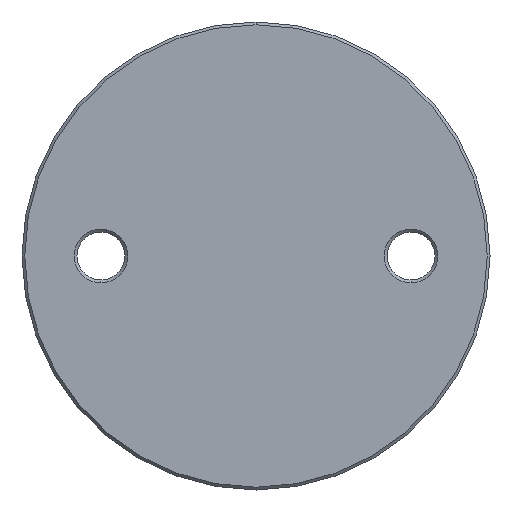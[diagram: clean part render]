
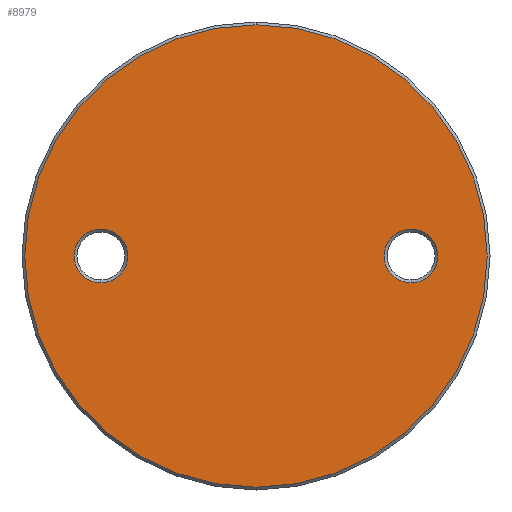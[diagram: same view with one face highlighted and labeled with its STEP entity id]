
A CAD part, front view. The second image highlights one B-rep face of the part: STEP entity #8979.
In plain terms, the highlighted planar face has unit normal (0, -1, 0).
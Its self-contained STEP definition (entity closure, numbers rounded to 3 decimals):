
#34 = FACE_BOUND ( 'NONE', #2474, .T. ) ;
#39 = EDGE_CURVE ( 'NONE', #5530, #4105, #3273, .T. ) ;
#333 = CARTESIAN_POINT ( 'NONE',  ( -27.5, -3., 0. ) ) ;
#684 = ORIENTED_EDGE ( 'NONE', *, *, #2409, .T. ) ;
#867 = VERTEX_POINT ( 'NONE', #5184 ) ;
#901 = FACE_OUTER_BOUND ( 'NONE', #4685, .T. ) ;
#1038 = EDGE_CURVE ( 'NONE', #1686, #2707, #8952, .T. ) ;
#1278 = DIRECTION ( 'NONE',  ( 0., 1., 0. ) ) ;
#1429 = ORIENTED_EDGE ( 'NONE', *, *, #9636, .T. ) ;
#1517 = CARTESIAN_POINT ( 'NONE',  ( 27.5, -3., 4.75 ) ) ;
#1603 = AXIS2_PLACEMENT_3D ( 'NONE', #2390, #8736, #7248 ) ;
#1665 = ORIENTED_EDGE ( 'NONE', *, *, #39, .T. ) ;
#1686 = VERTEX_POINT ( 'NONE', #6346 ) ;
#1696 = PLANE ( 'NONE',  #1603 ) ;
#1884 = DIRECTION ( 'NONE',  ( 0., 1., 0. ) ) ;
#2351 = ORIENTED_EDGE ( 'NONE', *, *, #1038, .T. ) ;
#2390 = CARTESIAN_POINT ( 'NONE',  ( 0., -3., 41.5 ) ) ;
#2409 = EDGE_CURVE ( 'NONE', #867, #7086, #6581, .T. ) ;
#2474 = EDGE_LOOP ( 'NONE', ( #1429, #1665 ) ) ;
#2707 = VERTEX_POINT ( 'NONE', #5394 ) ;
#3273 = CIRCLE ( 'NONE', #3768, 4.75 ) ;
#3475 = CARTESIAN_POINT ( 'NONE',  ( -27.5, -3., -4.75 ) ) ;
#3503 = FACE_BOUND ( 'NONE', #9472, .T. ) ;
#3531 = CARTESIAN_POINT ( 'NONE',  ( 0., -3., 0. ) ) ;
#3709 = DIRECTION ( 'NONE',  ( 0., 0., -1. ) ) ;
#3768 = AXIS2_PLACEMENT_3D ( 'NONE', #333, #9789, #4287 ) ;
#4105 = VERTEX_POINT ( 'NONE', #3475 ) ;
#4139 = DIRECTION ( 'NONE',  ( 0., 0., -1. ) ) ;
#4287 = DIRECTION ( 'NONE',  ( 0., 0., -1. ) ) ;
#4413 = ORIENTED_EDGE ( 'NONE', *, *, #6885, .T. ) ;
#4685 = EDGE_LOOP ( 'NONE', ( #2351, #6026 ) ) ;
#5039 = DIRECTION ( 'NONE',  ( 0., -1., 0. ) ) ;
#5184 = CARTESIAN_POINT ( 'NONE',  ( 27.5, -3., -4.75 ) ) ;
#5199 = AXIS2_PLACEMENT_3D ( 'NONE', #3531, #5039, #8936 ) ;
#5363 = DIRECTION ( 'NONE',  ( 0., -1., 0. ) ) ;
#5394 = CARTESIAN_POINT ( 'NONE',  ( 0., -3., -41. ) ) ;
#5530 = VERTEX_POINT ( 'NONE', #9535 ) ;
#5545 = CIRCLE ( 'NONE', #8514, 4.75 ) ;
#6010 = CIRCLE ( 'NONE', #5199, 41. ) ;
#6026 = ORIENTED_EDGE ( 'NONE', *, *, #8392, .T. ) ;
#6205 = AXIS2_PLACEMENT_3D ( 'NONE', #10169, #8657, #6269 ) ;
#6269 = DIRECTION ( 'NONE',  ( 0., 0., -1. ) ) ;
#6346 = CARTESIAN_POINT ( 'NONE',  ( 0., -3., 41. ) ) ;
#6581 = CIRCLE ( 'NONE', #7790, 4.75 ) ;
#6885 = EDGE_CURVE ( 'NONE', #7086, #867, #5545, .T. ) ;
#6938 = CARTESIAN_POINT ( 'NONE',  ( 27.5, -3., 0. ) ) ;
#7086 = VERTEX_POINT ( 'NONE', #1517 ) ;
#7248 = DIRECTION ( 'NONE',  ( 0., 0., -1. ) ) ;
#7364 = CARTESIAN_POINT ( 'NONE',  ( 27.5, -3., 0. ) ) ;
#7440 = AXIS2_PLACEMENT_3D ( 'NONE', #7722, #5363, #10152 ) ;
#7722 = CARTESIAN_POINT ( 'NONE',  ( 0., -3., 0. ) ) ;
#7790 = AXIS2_PLACEMENT_3D ( 'NONE', #7364, #1884, #4139 ) ;
#8392 = EDGE_CURVE ( 'NONE', #2707, #1686, #6010, .T. ) ;
#8514 = AXIS2_PLACEMENT_3D ( 'NONE', #6938, #1278, #3709 ) ;
#8657 = DIRECTION ( 'NONE',  ( 0., 1., 0. ) ) ;
#8736 = DIRECTION ( 'NONE',  ( 0., -1., 0. ) ) ;
#8936 = DIRECTION ( 'NONE',  ( 0., 0., -1. ) ) ;
#8952 = CIRCLE ( 'NONE', #7440, 41. ) ;
#8979 = ADVANCED_FACE ( 'NONE', ( #3503, #34, #901 ), #1696, .T. ) ;
#9265 = CIRCLE ( 'NONE', #6205, 4.75 ) ;
#9472 = EDGE_LOOP ( 'NONE', ( #684, #4413 ) ) ;
#9535 = CARTESIAN_POINT ( 'NONE',  ( -27.5, -3., 4.75 ) ) ;
#9636 = EDGE_CURVE ( 'NONE', #4105, #5530, #9265, .T. ) ;
#9789 = DIRECTION ( 'NONE',  ( 0., 1., 0. ) ) ;
#10152 = DIRECTION ( 'NONE',  ( 0., 0., -1. ) ) ;
#10169 = CARTESIAN_POINT ( 'NONE',  ( -27.5, -3., 0. ) ) ;
